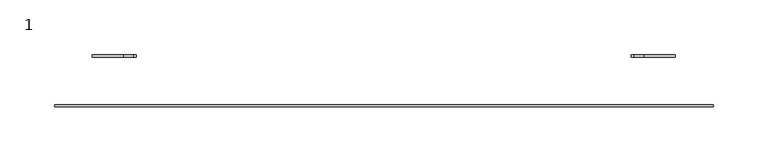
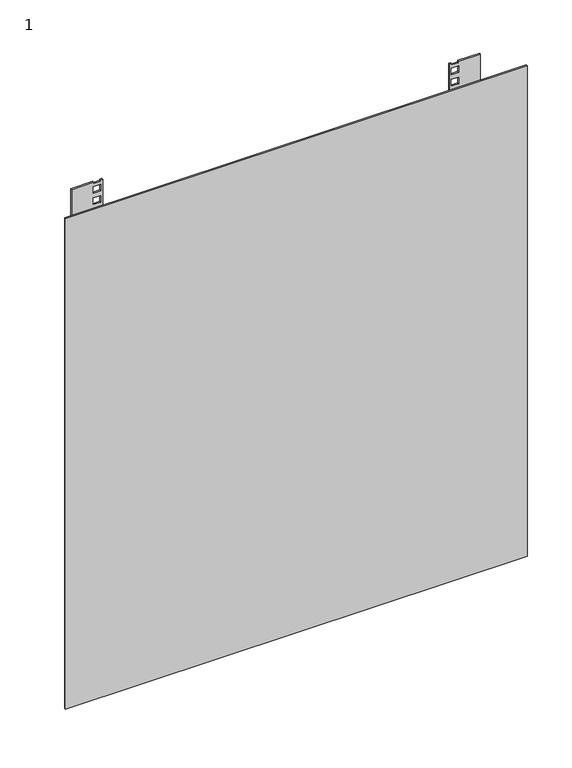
"""IFC4 building model written with IfcOpenShell, lengths in millimetres: proxy geometry, 1 : 15U 450мм металлическая дверь."""

import ifcopenshell
import ifcopenshell.guid

model = None  # the IFC model being written
_history = None  # IfcOwnerHistory: only IFC2X3 demands one
_inside = {}  # id of a spatial element -> (the spatial element, [elements in it])
_under = {}  # id of a project, library or spatial element -> (it, [spatial elements below it])
_declared = {}  # id of a project -> (the project, [libraries it declares])
_typed = {}  # id of a type object -> (the type object, [elements of that type])
_made_of = {}  # id of a material, layer set ... -> (it, [elements and type objects made of it])


def new_model(schema):
    """Start an empty IFC model of exactly this schema.

    Asked for "IFC4X3", IfcOpenShell would pick the latest addendum, in which some entities
    have other attributes; the version numbers below select the first issue.
    IFC2X3 requires an IfcOwnerHistory on every rooted entity: one is made here for all.
    """
    global model, _history
    if schema == "IFC4X3":
        model = ifcopenshell.file(schema_version=(4, 3, 0, 0))
    else:
        model = ifcopenshell.file(schema=schema)
    _inside.clear()
    _under.clear()
    _declared.clear()
    _typed.clear()
    _made_of.clear()
    _history = None
    if model.schema == "IFC2X3":
        org = make("IfcOrganization", Name="unknown")
        user = make(
            "IfcPersonAndOrganization",
            ThePerson=make("IfcPerson", FamilyName="unknown"),
            TheOrganization=org,
        )
        app = make(
            "IfcApplication",
            ApplicationDeveloper=org,
            Version="unknown",
            ApplicationFullName="unknown",
            ApplicationIdentifier="unknown",
        )
        _history = make(
            "IfcOwnerHistory",
            OwningUser=user,
            OwningApplication=app,
            ChangeAction="ADDED",
            CreationDate=0,
        )
    return model


def make(cls, **values):
    """One entity of the class cls with the attributes given. An attribute that is None is left unset."""
    return model.create_entity(
        cls, **{name: value for name, value in values.items() if value is not None}
    )


def rooted(cls, **values):
    """An entity with a GlobalId (a new one), such as an element, a storey or a relation."""
    return make(cls, GlobalId=ifcopenshell.guid.new(), OwnerHistory=_history, **values)


def si_unit(unit_type, name, prefix=None):
    """IfcSIUnit, for example si_unit("LENGTHUNIT", "METRE", prefix="MILLI")."""
    return make("IfcSIUnit", UnitType=unit_type, Prefix=prefix, Name=name)


def assignment(units):
    """IfcUnitAssignment: the units of a project."""
    return None if units is None else make("IfcUnitAssignment", Units=units)


def point(xyz):
    """IfcCartesianPoint."""
    return None if xyz is None else make("IfcCartesianPoint", Coordinates=xyz)


def direction(xyz):
    """IfcDirection."""
    return None if xyz is None else make("IfcDirection", DirectionRatios=xyz)


def frame(location, z_axis=None, x_axis=None):
    """IfcAxis2Placement3D, a coordinate frame: its origin and axes. An axis left out is left unset."""
    return make(
        "IfcAxis2Placement3D",
        Location=point(location),
        Axis=direction(z_axis),
        RefDirection=direction(x_axis),
    )


def origin():
    """The frame at (0, 0, 0) with its axes left unset."""
    return frame((0.0, 0.0, 0.0))


def place(relative_to, where):
    """IfcLocalPlacement: puts the frame where relative to a parent placement (None: the world)."""
    return make(
        "IfcLocalPlacement", PlacementRelTo=relative_to, RelativePlacement=where
    )


def context(
    kind, dimensions, precision=None, world=None, true_north=None, identifier=None
):
    """IfcGeometricRepresentationContext, for example the 3D "Model" context."""
    return make(
        "IfcGeometricRepresentationContext",
        ContextIdentifier=identifier,
        ContextType=kind,
        CoordinateSpaceDimension=dimensions,
        Precision=precision,
        WorldCoordinateSystem=world,
        TrueNorth=true_north,
    )


def project(units=None, contexts=None):
    """IfcProject with its units and contexts."""
    return rooted(
        "IfcProject",
        Name="project",
        RepresentationContexts=contexts,
        UnitsInContext=assignment(units),
    )


def spatial(cls, under=None, at=None, **own):
    """A site, building, storey or space (cls), placed at a placement, below another one or the project."""
    s = rooted(cls, ObjectPlacement=at, **own)
    if under is not None:
        _under.setdefault(under.id(), (under, []))[1].append(s)
    return s


def polyline(points):
    """IfcPolyline through the points."""
    return make("IfcPolyline", Points=[point(p) for p in points])


def outline(outer, holes=None, kind="AREA"):
    """IfcArbitraryClosedProfileDef: a profile drawn as a closed curve; with holes, ...WithVoids."""
    if holes is None:
        return make("IfcArbitraryClosedProfileDef", ProfileType=kind, OuterCurve=outer)
    return make(
        "IfcArbitraryProfileDefWithVoids",
        ProfileType=kind,
        OuterCurve=outer,
        InnerCurves=holes,
    )


def extrude(swept, where, along, depth):
    """IfcExtrudedAreaSolid: the profile swept, set in the frame where, extruded along a direction by depth."""
    return make(
        "IfcExtrudedAreaSolid",
        SweptArea=swept,
        Position=where,
        ExtrudedDirection=direction(along),
        Depth=depth,
    )


def shape(context_of_items, identifier, shape_type, items):
    """IfcShapeRepresentation: the items that make up one representation, for example the "Body"."""
    return make(
        "IfcShapeRepresentation",
        ContextOfItems=context_of_items,
        RepresentationIdentifier=identifier,
        RepresentationType=shape_type,
        Items=items,
    )


def source(mapping_origin, context_of_items, identifier, shape_type, items):
    """IfcRepresentationMap: a shape defined once, which mapped items show again and again."""
    return make(
        "IfcRepresentationMap",
        MappingOrigin=mapping_origin,
        MappedRepresentation=shape(context_of_items, identifier, shape_type, items),
    )


def transform(
    local_origin,
    x_axis=None,
    y_axis=None,
    z_axis=None,
    scale=None,
    scale2=None,
    scale3=None,
    uniform=True,
):
    """IfcCartesianTransformationOperator3D, or its non-uniform kind. x_axis, y_axis, z_axis: its Axis1, 2, 3."""
    if uniform:
        return make(
            "IfcCartesianTransformationOperator3D",
            Axis1=direction(x_axis),
            Axis2=direction(y_axis),
            LocalOrigin=point(local_origin),
            Scale=scale,
            Axis3=direction(z_axis),
        )
    return make(
        "IfcCartesianTransformationOperator3DnonUniform",
        Axis1=direction(x_axis),
        Axis2=direction(y_axis),
        LocalOrigin=point(local_origin),
        Scale=scale,
        Axis3=direction(z_axis),
        Scale2=scale2,
        Scale3=scale3,
    )


def mapped(mapping_source, mapping_target):
    """IfcMappedItem: shows the shape of a source again, moved by a transform."""
    return make(
        "IfcMappedItem", MappingSource=mapping_source, MappingTarget=mapping_target
    )


def made_of(thing, what):
    """Note that an element or type object is made of a material, layer set ...; save() writes the relation."""
    if what is not None:
        _made_of.setdefault(what.id(), (what, []))[1].append(thing)
    return thing


def element(
    cls,
    number,
    at=None,
    inside=None,
    cuts=None,
    type_object=None,
    material=None,
    context=None,
    identifier="Body",
    shape_type=None,
    held_by="IfcProductDefinitionShape",
    body=None,
    shapes=None,
    **own,
):
    """One element of the class cls, such as IfcWall. Its Tag is "e" and its number.

    at: its placement. inside: the storey or other place that contains it. cuts: it is an
    opening in that element (IfcRelVoidsElement). A single representation is given by context,
    identifier, shape_type and body (its items); several are given by shapes. held_by: the class
    of the entity that holds the representations. save() writes the other relations.
    """
    e = rooted(cls, Tag="e%d" % number, ObjectPlacement=at, **own)
    if body is not None:
        shapes = [shape(context, identifier, shape_type, body)]
    if shapes is not None:
        e.Representation = make(held_by, Representations=shapes)
    if inside is not None:
        _inside.setdefault(inside.id(), (inside, []))[1].append(e)
    if cuts is not None:
        rooted(
            "IfcRelVoidsElement", RelatingBuildingElement=cuts, RelatedOpeningElement=e
        )
    if type_object is not None:
        _typed.setdefault(type_object.id(), (type_object, []))[1].append(e)
    return made_of(e, material)


def aggregate(whole, parts):
    """IfcRelAggregates: a whole, such as a stair, and the parts it consists of."""
    return rooted("IfcRelAggregates", RelatingObject=whole, RelatedObjects=parts)


def save(model, path):
    """Write the relations noted so far, then the file.

    IfcRelAggregates (storeys below a building ...), IfcRelContainedInSpatialStructure (elements
    in a storey), IfcRelDefinesByType, IfcRelAssociatesMaterial and IfcRelDeclares: one each for
    every whole, place, type object, material and project.
    """
    for whole, parts in _under.values():
        aggregate(whole, parts)
    for where, things in _inside.values():
        rooted(
            "IfcRelContainedInSpatialStructure",
            RelatedElements=things,
            RelatingStructure=where,
        )
    for kind, things in _typed.values():
        rooted("IfcRelDefinesByType", RelatedObjects=things, RelatingType=kind)
    for what, things in _made_of.values():
        rooted("IfcRelAssociatesMaterial", RelatedObjects=things, RelatingMaterial=what)
    for by, libraries in _declared.values():
        rooted("IfcRelDeclares", RelatingContext=by, RelatedDefinitions=libraries)
    model.write(path)


def proxy_1_d1b3fc70(model_context):
    return source(origin(), model_context, "Body", "SweptSolid", [
        extrude(outline(polyline([(20.4675, 225.3), (20.4675, 265.3), (714.4675, 265.3), (714.4675, 237.05), (712.8175, 237.05), (712.8175, 227.55), (714.4675, 227.55), (714.4675, 225.3), (20.4675, 225.3)]), holes=[polyline([(55.0175, 227.55), (55.0175, 237.05), (46.0675, 237.05), (46.0675, 227.55), (55.0175, 227.55)]), polyline([(70.6675, 227.55), (70.6675, 237.05), (61.7175, 237.05), (61.7175, 227.55), (70.6675, 227.55)]), polyline([(86.3175, 227.55), (86.3175, 237.05), (77.3675, 237.05), (77.3675, 227.55), (86.3175, 227.55)]), polyline([(99.4675, 237.05), (90.5175, 237.05), (90.5175, 227.55), (99.4675, 227.55), (99.4675, 237.05)]), polyline([(115.1175, 237.05), (106.1675, 237.05), (106.1675, 227.55), (115.1175, 227.55), (115.1175, 237.05)]), polyline([(130.7675, 237.05), (121.8175, 237.05), (121.8175, 227.55), (130.7675, 227.55), (130.7675, 237.05)]), polyline([(143.9175, 237.05), (134.9675, 237.05), (134.9675, 227.55), (143.9175, 227.55), (143.9175, 237.05)]), polyline([(159.5675, 237.05), (150.6175, 237.05), (150.6175, 227.55), (159.5675, 227.55), (159.5675, 237.05)]), polyline([(175.2175, 237.05), (166.2675, 237.05), (166.2675, 227.55), (175.2175, 227.55), (175.2175, 237.05)]), polyline([(188.3675, 237.05), (179.4175, 237.05), (179.4175, 227.55), (188.3675, 227.55), (188.3675, 237.05)]), polyline([(204.0175, 237.05), (195.0675, 237.05), (195.0675, 227.55), (204.0175, 227.55), (204.0175, 237.05)]), polyline([(219.6675, 237.05), (210.7175, 237.05), (210.7175, 227.55), (219.6675, 227.55), (219.6675, 237.05)]), polyline([(232.8175, 237.05), (223.8675, 237.05), (223.8675, 227.55), (232.8175, 227.55), (232.8175, 237.05)]), polyline([(248.4675, 237.05), (239.5175, 237.05), (239.5175, 227.55), (248.4675, 227.55), (248.4675, 237.05)]), polyline([(264.1175, 237.05), (255.1675, 237.05), (255.1675, 227.55), (264.1175, 227.55), (264.1175, 237.05)]), polyline([(277.2675, 237.05), (268.3175, 237.05), (268.3175, 227.55), (277.2675, 227.55), (277.2675, 237.05)]), polyline([(292.9175, 237.05), (283.9675, 237.05), (283.9675, 227.55), (292.9175, 227.55), (292.9175, 237.05)]), polyline([(308.5675, 237.05), (299.6175, 237.05), (299.6175, 227.55), (308.5675, 227.55), (308.5675, 237.05)]), polyline([(321.7175, 237.05), (312.7675, 237.05), (312.7675, 227.55), (321.7175, 227.55), (321.7175, 237.05)]), polyline([(337.3675, 237.05), (328.4175, 237.05), (328.4175, 227.55), (337.3675, 227.55), (337.3675, 237.05)]), polyline([(353.0175, 237.05), (344.0675, 237.05), (344.0675, 227.55), (353.0175, 227.55), (353.0175, 237.05)]), polyline([(366.1675, 237.05), (357.2175, 237.05), (357.2175, 227.55), (366.1675, 227.55), (366.1675, 237.05)]), polyline([(381.8175, 237.05), (372.8675, 237.05), (372.8675, 227.55), (381.8175, 227.55), (381.8175, 237.05)]), polyline([(397.4675, 237.05), (388.5175, 237.05), (388.5175, 227.55), (397.4675, 227.55), (397.4675, 237.05)]), polyline([(410.6175, 237.05), (401.6675, 237.05), (401.6675, 227.55), (410.6175, 227.55), (410.6175, 237.05)]), polyline([(426.2675, 237.05), (417.3175, 237.05), (417.3175, 227.55), (426.2675, 227.55), (426.2675, 237.05)]), polyline([(441.9175, 237.05), (432.9675, 237.05), (432.9675, 227.55), (441.9175, 227.55), (441.9175, 237.05)]), polyline([(455.0675, 237.05), (446.1175, 237.05), (446.1175, 227.55), (455.0675, 227.55), (455.0675, 237.05)]), polyline([(470.7175, 237.05), (461.7675, 237.05), (461.7675, 227.55), (470.7175, 227.55), (470.7175, 237.05)]), polyline([(486.3675, 237.05), (477.4175, 237.05), (477.4175, 227.55), (486.3675, 227.55), (486.3675, 237.05)]), polyline([(499.5175, 237.05), (490.5675, 237.05), (490.5675, 227.55), (499.5175, 227.55), (499.5175, 237.05)]), polyline([(515.1675, 237.05), (506.2175, 237.05), (506.2175, 227.55), (515.1675, 227.55), (515.1675, 237.05)]), polyline([(530.8175, 237.05), (521.8675, 237.05), (521.8675, 227.55), (530.8175, 227.55), (530.8175, 237.05)]), polyline([(543.9675, 237.05), (535.0175, 237.05), (535.0175, 227.55), (543.9675, 227.55), (543.9675, 237.05)]), polyline([(559.6175, 237.05), (550.6675, 237.05), (550.6675, 227.55), (559.6175, 227.55), (559.6175, 237.05)]), polyline([(575.2675, 237.05), (566.3175, 237.05), (566.3175, 227.55), (575.2675, 227.55), (575.2675, 237.05)]), polyline([(588.4175, 237.05), (579.4675, 237.05), (579.4675, 227.55), (588.4175, 227.55), (588.4175, 237.05)]), polyline([(604.0675, 237.05), (595.1175, 237.05), (595.1175, 227.55), (604.0675, 227.55), (604.0675, 237.05)]), polyline([(619.7175, 237.05), (610.7675, 237.05), (610.7675, 227.55), (619.7175, 227.55), (619.7175, 237.05)]), polyline([(632.8675, 237.05), (623.9175, 237.05), (623.9175, 227.55), (632.8675, 227.55), (632.8675, 237.05)]), polyline([(648.5175, 237.05), (639.5675, 237.05), (639.5675, 227.55), (648.5175, 227.55), (648.5175, 237.05)]), polyline([(664.1675, 237.05), (655.2175, 237.05), (655.2175, 227.55), (664.1675, 227.55), (664.1675, 237.05)]), polyline([(677.3175, 237.05), (668.3675, 237.05), (668.3675, 227.55), (677.3175, 227.55), (677.3175, 237.05)]), polyline([(692.9675, 237.05), (684.0175, 237.05), (684.0175, 227.55), (692.9675, 227.55), (692.9675, 237.05)]), polyline([(708.6175, 237.05), (699.6675, 237.05), (699.6675, 227.55), (708.6175, 227.55), (708.6175, 237.05)])]), frame((0.0, -179.6777479, 0.0), z_axis=(0.0, 1.0, 0.0), x_axis=(0.0, 0.0, 1.0)), (0.0, 0.0, 1.0), 2.0),
        extrude(outline(polyline([(20.4675, -265.7), (20.4675, -225.7), (714.4675, -225.7), (714.4675, -227.95), (712.8175, -227.95), (712.8175, -237.45), (714.4675, -237.45), (714.4675, -265.7), (20.4675, -265.7)]), holes=[polyline([(55.0175, -237.45), (55.0175, -227.95), (46.0675, -227.95), (46.0675, -237.45), (55.0175, -237.45)]), polyline([(70.6675, -237.45), (70.6675, -227.95), (61.7175, -227.95), (61.7175, -237.45), (70.6675, -237.45)]), polyline([(86.3175, -237.45), (86.3175, -227.95), (77.3675, -227.95), (77.3675, -237.45), (86.3175, -237.45)]), polyline([(90.5175, -237.45), (99.4675, -237.45), (99.4675, -227.95), (90.5175, -227.95), (90.5175, -237.45)]), polyline([(106.1675, -237.45), (115.1175, -237.45), (115.1175, -227.95), (106.1675, -227.95), (106.1675, -237.45)]), polyline([(121.8175, -237.45), (130.7675, -237.45), (130.7675, -227.95), (121.8175, -227.95), (121.8175, -237.45)]), polyline([(134.9675, -237.45), (143.9175, -237.45), (143.9175, -227.95), (134.9675, -227.95), (134.9675, -237.45)]), polyline([(150.6175, -237.45), (159.5675, -237.45), (159.5675, -227.95), (150.6175, -227.95), (150.6175, -237.45)]), polyline([(166.2675, -237.45), (175.2175, -237.45), (175.2175, -227.95), (166.2675, -227.95), (166.2675, -237.45)]), polyline([(179.4175, -237.45), (188.3675, -237.45), (188.3675, -227.95), (179.4175, -227.95), (179.4175, -237.45)]), polyline([(195.0675, -237.45), (204.0175, -237.45), (204.0175, -227.95), (195.0675, -227.95), (195.0675, -237.45)]), polyline([(210.7175, -237.45), (219.6675, -237.45), (219.6675, -227.95), (210.7175, -227.95), (210.7175, -237.45)]), polyline([(223.8675, -237.45), (232.8175, -237.45), (232.8175, -227.95), (223.8675, -227.95), (223.8675, -237.45)]), polyline([(239.5175, -237.45), (248.4675, -237.45), (248.4675, -227.95), (239.5175, -227.95), (239.5175, -237.45)]), polyline([(255.1675, -237.45), (264.1175, -237.45), (264.1175, -227.95), (255.1675, -227.95), (255.1675, -237.45)]), polyline([(268.3175, -237.45), (277.2675, -237.45), (277.2675, -227.95), (268.3175, -227.95), (268.3175, -237.45)]), polyline([(283.9675, -237.45), (292.9175, -237.45), (292.9175, -227.95), (283.9675, -227.95), (283.9675, -237.45)]), polyline([(299.6175, -237.45), (308.5675, -237.45), (308.5675, -227.95), (299.6175, -227.95), (299.6175, -237.45)]), polyline([(312.7675, -237.45), (321.7175, -237.45), (321.7175, -227.95), (312.7675, -227.95), (312.7675, -237.45)]), polyline([(328.4175, -237.45), (337.3675, -237.45), (337.3675, -227.95), (328.4175, -227.95), (328.4175, -237.45)]), polyline([(344.0675, -237.45), (353.0175, -237.45), (353.0175, -227.95), (344.0675, -227.95), (344.0675, -237.45)]), polyline([(357.2175, -237.45), (366.1675, -237.45), (366.1675, -227.95), (357.2175, -227.95), (357.2175, -237.45)]), polyline([(372.8675, -237.45), (381.8175, -237.45), (381.8175, -227.95), (372.8675, -227.95), (372.8675, -237.45)]), polyline([(388.5175, -237.45), (397.4675, -237.45), (397.4675, -227.95), (388.5175, -227.95), (388.5175, -237.45)]), polyline([(401.6675, -237.45), (410.6175, -237.45), (410.6175, -227.95), (401.6675, -227.95), (401.6675, -237.45)]), polyline([(417.3175, -237.45), (426.2675, -237.45), (426.2675, -227.95), (417.3175, -227.95), (417.3175, -237.45)]), polyline([(432.9675, -237.45), (441.9175, -237.45), (441.9175, -227.95), (432.9675, -227.95), (432.9675, -237.45)]), polyline([(446.1175, -237.45), (455.0675, -237.45), (455.0675, -227.95), (446.1175, -227.95), (446.1175, -237.45)]), polyline([(461.7675, -237.45), (470.7175, -237.45), (470.7175, -227.95), (461.7675, -227.95), (461.7675, -237.45)]), polyline([(477.4175, -237.45), (486.3675, -237.45), (486.3675, -227.95), (477.4175, -227.95), (477.4175, -237.45)]), polyline([(490.5675, -237.45), (499.5175, -237.45), (499.5175, -227.95), (490.5675, -227.95), (490.5675, -237.45)]), polyline([(506.2175, -237.45), (515.1675, -237.45), (515.1675, -227.95), (506.2175, -227.95), (506.2175, -237.45)]), polyline([(521.8675, -237.45), (530.8175, -237.45), (530.8175, -227.95), (521.8675, -227.95), (521.8675, -237.45)]), polyline([(535.0175, -237.45), (543.9675, -237.45), (543.9675, -227.95), (535.0175, -227.95), (535.0175, -237.45)]), polyline([(550.6675, -237.45), (559.6175, -237.45), (559.6175, -227.95), (550.6675, -227.95), (550.6675, -237.45)]), polyline([(566.3175, -237.45), (575.2675, -237.45), (575.2675, -227.95), (566.3175, -227.95), (566.3175, -237.45)]), polyline([(579.4675, -237.45), (588.4175, -237.45), (588.4175, -227.95), (579.4675, -227.95), (579.4675, -237.45)]), polyline([(595.1175, -237.45), (604.0675, -237.45), (604.0675, -227.95), (595.1175, -227.95), (595.1175, -237.45)]), polyline([(610.7675, -237.45), (619.7175, -237.45), (619.7175, -227.95), (610.7675, -227.95), (610.7675, -237.45)]), polyline([(623.9175, -237.45), (632.8675, -237.45), (632.8675, -227.95), (623.9175, -227.95), (623.9175, -237.45)]), polyline([(639.5675, -237.45), (648.5175, -237.45), (648.5175, -227.95), (639.5675, -227.95), (639.5675, -237.45)]), polyline([(655.2175, -237.45), (664.1675, -237.45), (664.1675, -227.95), (655.2175, -227.95), (655.2175, -237.45)]), polyline([(668.3675, -237.45), (677.3175, -237.45), (677.3175, -227.95), (668.3675, -227.95), (668.3675, -237.45)]), polyline([(684.0175, -237.45), (692.9675, -237.45), (692.9675, -227.95), (684.0175, -227.95), (684.0175, -237.45)]), polyline([(699.6675, -237.45), (708.6175, -237.45), (708.6175, -227.95), (699.6675, -227.95), (699.6675, -237.45)])]), frame((0.0, -179.6777479, 0.0), z_axis=(0.0, 1.0, 0.0), x_axis=(0.0, 0.0, 1.0)), (0.0, 0.0, 1.0), 2.0),
        extrude(outline(polyline([(-300.0, -223.0), (300.0, -223.0), (300.0, -225.0), (-300.0, -225.0), (-300.0, -223.0)])), frame((0.0, 0.0, 40.0), z_axis=(0.0, 0.0, 1.0), x_axis=(1.0, 0.0, 0.0)), (0.0, 0.0, 1.0), 674.0),
    ])


if __name__ == "__main__":
    model = new_model("IFC4")
    model_context = context("Model", 3, world=origin())
    ifc_project = project(units=[si_unit("LENGTHUNIT", "METRE", prefix="MILLI")], contexts=[model_context])
    site = spatial("IfcSite", under=ifc_project)
    building = spatial("IfcBuilding", under=site)
    placement = place(None, origin())
    proxy_1_shape = proxy_1_d1b3fc70(model_context)
    element("IfcBuildingElementProxy", 1, Name="1 : 15U 450мм металлическая дверь", ObjectType="1 : 15U 450мм металлическая дверь", at=placement, inside=building, context=model_context, shape_type="MappedRepresentation", body=[
        mapped(proxy_1_shape, transform((0.0, 0.0, 0.0), x_axis=(1.0, 0.0, 0.0), y_axis=(0.0, 1.0, 0.0), z_axis=(0.0, 0.0, 1.0))),
    ])
    save(model, "model.ifc")
